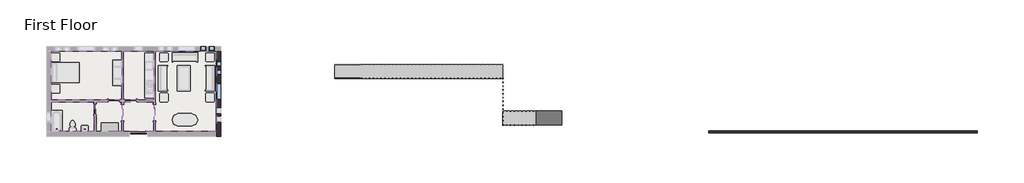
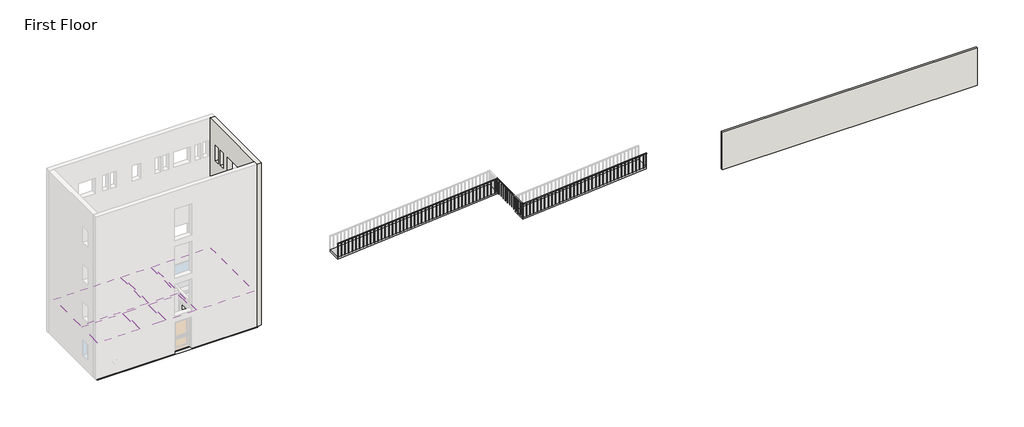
# One storey, part 2 of 3: 6 coverings, 5 windows, 2 walls, 1 railing, 1 ramp, 1 slab.
"""IFC4 building model written with IfcOpenShell, lengths in millimetres."""

from ifc_helpers import new_model, si_unit, frame, origin, origin_with_axes, place, context, project, spatial, polyline, outline, extrude, faceted_brep, transform, mapped, element, save
from components import ramp_1_0e3f6d6b, m_fixed_0406_x_1220mm_57fee329, m_fixed_0406_x_1220mm_85c28f40, m_fixed_1220_x_1220_e08ff7af

model = new_model("IFC4")

# Units and contexts
model_context = context("Model", 3, world=origin())
ifc_project = project(units=[si_unit("LENGTHUNIT", "METRE", prefix="MILLI")], contexts=[model_context])

# Site, building, storey
site = spatial("IfcSite", under=ifc_project)
building = spatial("IfcBuilding", under=site)
storey = spatial("IfcBuildingStorey", under=building, Name="First Floor", Elevation=0.0)

# Coverings
placement = place(None, origin())
element("IfcCovering", 1, ObjectType="Plain", at=placement, inside=storey, context=model_context, shape_type="SweptSolid", body=[
    extrude(outline(polyline([(-18201.8430086, 13851.0670483), (-13194.8430086, 13851.0670483), (-13194.8430086, 10374.5670483), (-18201.8430086, 10374.5670483), (-18201.8430086, 13851.0670483)])), frame((0.0, 0.0, 2590.0), z_axis=(0.0, 0.0, 1.0), x_axis=(1.0, 0.0, 0.0)), (0.0, 0.0, 1.0), 57.0),
])
element("IfcCovering", 2, ObjectType="Plain", at=placement, inside=storey, context=model_context, shape_type="SweptSolid", body=[
    extrude(outline(polyline([(-13059.3430086, 10374.5670483), (-13059.3430086, 13851.0670483), (-10908.8430086, 13851.0670483), (-10908.8430086, 10374.5670483), (-13059.3430086, 10374.5670483)])), frame((0.0, 0.0, 2590.0), z_axis=(0.0, 0.0, 1.0), x_axis=(1.0, 0.0, 0.0)), (0.0, 0.0, 1.0), 57.0),
])
element("IfcCovering", 3, ObjectType="Plain", at=placement, inside=storey, context=model_context, shape_type="SweptSolid", body=[
    extrude(outline(polyline([(-10773.3430086, 8105.0670483), (-10773.3430086, 13851.0670483), (-6444.0930086, 13851.0670483), (-6444.0930086, 8105.0670483), (-10773.3430086, 8105.0670483)])), frame((0.0, 0.0, 2590.0), z_axis=(0.0, 0.0, 1.0), x_axis=(1.0, 0.0, 0.0)), (0.0, 0.0, 1.0), 57.0),
])
element("IfcCovering", 4, ObjectType="Plain", at=placement, inside=storey, context=model_context, shape_type="SweptSolid", body=[
    extrude(outline(polyline([(-10908.8430086, 8105.0670483), (-13059.3430086, 8105.0670483), (-13059.3430086, 10239.0670483), (-10908.8430086, 10239.0670483), (-10908.8430086, 8105.0670483)])), frame((0.0, 0.0, 2590.0), z_axis=(0.0, 0.0, 1.0), x_axis=(1.0, 0.0, 0.0)), (0.0, 0.0, 1.0), 57.0),
])
element("IfcCovering", 5, ObjectType="Plain", at=placement, inside=storey, context=model_context, shape_type="SweptSolid", body=[
    extrude(outline(polyline([(-13194.8430086, 8105.0670483), (-15018.3430086, 8105.0670483), (-15018.3430086, 10239.0670483), (-13194.8430086, 10239.0670483), (-13194.8430086, 8105.0670483)])), frame((0.0, 0.0, 2590.0), z_axis=(0.0, 0.0, 1.0), x_axis=(1.0, 0.0, 0.0)), (0.0, 0.0, 1.0), 57.0),
])
element("IfcCovering", 6, ObjectType="Plain", at=placement, inside=storey, context=model_context, shape_type="SweptSolid", body=[
    extrude(outline(polyline([(-15153.8430086, 10239.0670483), (-15153.8430086, 8105.0670483), (-18201.8430086, 8105.0670483), (-18201.8430086, 10239.0670483), (-15153.8430086, 10239.0670483)])), frame((0.0, 0.0, 2590.0), z_axis=(0.0, 0.0, 1.0), x_axis=(1.0, 0.0, 0.0)), (0.0, 0.0, 1.0), 57.0),
])

# Railing
element("IfcRailing", 7, ObjectType="1100mm", at=placement, inside=storey, context=model_context, shape_type="SolidModel", body=[
    faceted_brep([(2045.9938283, 11939.6420399, 1100.0), (2045.9938283, 11939.6420399, 1049.8266893), (2045.9938283, 11889.6420399, 1049.8266893), (2045.9938283, 11889.6420399, 1100.0), (13945.9938283, 11939.6420399, 2091.6666667), (13995.9938283, 11939.6420399, 2045.6600226), (13995.9938283, 11889.6420399, 2045.6600226), (13945.9938283, 11889.6420399, 2091.6666667), (13945.9938283, 11939.6420399, 2100.0), (13995.9938283, 11939.6420399, 2050.0), (13995.9938283, 11889.6420399, 2050.0), (13945.9938283, 11889.6420399, 2100.0), (14070.9938283, 11939.6420399, 2100.0), (14070.9938283, 11939.6420399, 2050.0), (14020.9938283, 11889.6420399, 2050.0), (14020.9938283, 11889.6420399, 2100.0), (14070.9938283, 11814.6420399, 2100.0), (14070.9938283, 11814.6420399, 2050.0), (14020.9938283, 11814.6420399, 2050.0), (14020.9938283, 11814.6420399, 2100.0), (14070.9938283, 8671.2961921, 2100.0), (14070.9938283, 8621.2961921, 2050.0), (14020.9938283, 8621.2961921, 2050.0), (14020.9938283, 8671.2961921, 2100.0), (14070.9938283, 8671.2961921, 2108.3333333), (14070.9938283, 8621.2961921, 2058.3333333), (14020.9938283, 8621.2961921, 2058.3333333), (14020.9938283, 8671.2961921, 2108.3333333), (14070.9938283, 8596.2961921, 2108.3333333), (14070.9938283, 8596.2961921, 2058.3333333), (14020.9938283, 8546.2961921, 2058.3333333), (14020.9938283, 8546.2961921, 2108.3333333), (14145.9938283, 8596.2961921, 2108.3333333), (14148.0735572, 8596.2961921, 2058.3333333), (14148.0735572, 8546.2961921, 2058.3333333), (14145.9938283, 8546.2961921, 2108.3333333), (23345.9938283, 8596.2961921, 2875.0), (23345.9938283, 8546.2961921, 2875.0), (23345.9938283, 8546.2961921, 2824.8266893), (23345.9938283, 8596.2961921, 2824.8266893)], [[[0, 1, 2, 3]], [[1, 0, 4, 5]], [[2, 1, 5, 6]], [[3, 2, 6, 7]], [[0, 3, 7, 4]], [[5, 4, 8, 9]], [[6, 5, 9, 10]], [[7, 6, 10, 11]], [[4, 7, 11, 8]], [[9, 8, 12, 13]], [[10, 9, 13, 14]], [[11, 10, 14, 15]], [[8, 11, 15, 12]], [[13, 12, 16, 17]], [[14, 13, 17, 18]], [[15, 14, 18, 19]], [[12, 15, 19, 16]], [[17, 16, 20, 21]], [[18, 17, 21, 22]], [[19, 18, 22, 23]], [[16, 19, 23, 20]], [[21, 20, 24, 25]], [[22, 21, 25, 26]], [[23, 22, 26, 27]], [[20, 23, 27, 24]], [[25, 24, 28, 29]], [[26, 25, 29, 30]], [[27, 26, 30, 31]], [[24, 27, 31, 28]], [[29, 28, 32, 33]], [[30, 29, 33, 34]], [[31, 30, 34, 35]], [[28, 31, 35, 32]], [[36, 37, 38, 39]], [[33, 32, 36, 39]], [[34, 33, 39, 38]], [[35, 34, 38, 37]], [[32, 35, 37, 36]]]),
    extrude(outline(polyline([(1755.2083333, 23108.4938283), (1757.2916667, 23133.4938283), (2807.1183559, 23133.4938283), (2805.0350226, 23108.4938283), (1755.2083333, 23108.4938283)])), frame((0.0, 8558.7961921, 0.0), z_axis=(0.0, 1.0, 0.0), x_axis=(0.0, 0.0, 1.0)), (0.0, 0.0, 1.0), 25.0),
    extrude(outline(polyline([(1732.2916667, 22833.4938283), (1734.375, 22858.4938283), (2784.2016893, 22858.4938283), (2782.1183559, 22833.4938283), (1732.2916667, 22833.4938283)])), frame((0.0, 8558.7961921, 0.0), z_axis=(0.0, 1.0, 0.0), x_axis=(0.0, 0.0, 1.0)), (0.0, 0.0, 1.0), 25.0),
    extrude(outline(polyline([(1709.375, 22558.4938283), (1711.4583333, 22583.4938283), (2761.2850226, 22583.4938283), (2759.2016893, 22558.4938283), (1709.375, 22558.4938283)])), frame((0.0, 8558.7961921, 0.0), z_axis=(0.0, 1.0, 0.0), x_axis=(0.0, 0.0, 1.0)), (0.0, 0.0, 1.0), 25.0),
    extrude(outline(polyline([(1686.4583333, 22283.4938283), (1688.5416667, 22308.4938283), (2738.3683559, 22308.4938283), (2736.2850226, 22283.4938283), (1686.4583333, 22283.4938283)])), frame((0.0, 8558.7961921, 0.0), z_axis=(0.0, 1.0, 0.0), x_axis=(0.0, 0.0, 1.0)), (0.0, 0.0, 1.0), 25.0),
    extrude(outline(polyline([(1663.5416667, 22008.4938283), (1665.625, 22033.4938283), (2715.4516893, 22033.4938283), (2713.3683559, 22008.4938283), (1663.5416667, 22008.4938283)])), frame((0.0, 8558.7961921, 0.0), z_axis=(0.0, 1.0, 0.0), x_axis=(0.0, 0.0, 1.0)), (0.0, 0.0, 1.0), 25.0),
    extrude(outline(polyline([(1640.625, 21733.4938283), (1642.7083333, 21758.4938283), (2692.5350226, 21758.4938283), (2690.4516893, 21733.4938283), (1640.625, 21733.4938283)])), frame((0.0, 8558.7961921, 0.0), z_axis=(0.0, 1.0, 0.0), x_axis=(0.0, 0.0, 1.0)), (0.0, 0.0, 1.0), 25.0),
    extrude(outline(polyline([(1617.7083333, 21458.4938283), (1619.7916667, 21483.4938283), (2669.6183559, 21483.4938283), (2667.5350226, 21458.4938283), (1617.7083333, 21458.4938283)])), frame((0.0, 8558.7961921, 0.0), z_axis=(0.0, 1.0, 0.0), x_axis=(0.0, 0.0, 1.0)), (0.0, 0.0, 1.0), 25.0),
    extrude(outline(polyline([(1594.7916667, 21183.4938283), (1596.875, 21208.4938283), (2646.7016893, 21208.4938283), (2644.6183559, 21183.4938283), (1594.7916667, 21183.4938283)])), frame((0.0, 8558.7961921, 0.0), z_axis=(0.0, 1.0, 0.0), x_axis=(0.0, 0.0, 1.0)), (0.0, 0.0, 1.0), 25.0),
    extrude(outline(polyline([(1571.875, 20908.4938283), (1573.9583333, 20933.4938283), (2623.7850226, 20933.4938283), (2621.7016893, 20908.4938283), (1571.875, 20908.4938283)])), frame((0.0, 8558.7961921, 0.0), z_axis=(0.0, 1.0, 0.0), x_axis=(0.0, 0.0, 1.0)), (0.0, 0.0, 1.0), 25.0),
    extrude(outline(polyline([(1548.9583333, 20633.4938283), (1551.0416667, 20658.4938283), (2600.8683559, 20658.4938283), (2598.7850226, 20633.4938283), (1548.9583333, 20633.4938283)])), frame((0.0, 8558.7961921, 0.0), z_axis=(0.0, 1.0, 0.0), x_axis=(0.0, 0.0, 1.0)), (0.0, 0.0, 1.0), 25.0),
    extrude(outline(polyline([(1526.0416667, 20358.4938283), (1528.125, 20383.4938283), (2577.9516893, 20383.4938283), (2575.8683559, 20358.4938283), (1526.0416667, 20358.4938283)])), frame((0.0, 8558.7961921, 0.0), z_axis=(0.0, 1.0, 0.0), x_axis=(0.0, 0.0, 1.0)), (0.0, 0.0, 1.0), 25.0),
    extrude(outline(polyline([(1503.125, 20083.4938283), (1505.2083333, 20108.4938283), (2555.0350226, 20108.4938283), (2552.9516893, 20083.4938283), (1503.125, 20083.4938283)])), frame((0.0, 8558.7961921, 0.0), z_axis=(0.0, 1.0, 0.0), x_axis=(0.0, 0.0, 1.0)), (0.0, 0.0, 1.0), 25.0),
    extrude(outline(polyline([(1480.2083333, 19808.4938283), (1482.2916667, 19833.4938283), (2532.1183559, 19833.4938283), (2530.0350226, 19808.4938283), (1480.2083333, 19808.4938283)])), frame((0.0, 8558.7961921, 0.0), z_axis=(0.0, 1.0, 0.0), x_axis=(0.0, 0.0, 1.0)), (0.0, 0.0, 1.0), 25.0),
    extrude(outline(polyline([(1457.2916667, 19533.4938283), (1459.375, 19558.4938283), (2509.2016893, 19558.4938283), (2507.1183559, 19533.4938283), (1457.2916667, 19533.4938283)])), frame((0.0, 8558.7961921, 0.0), z_axis=(0.0, 1.0, 0.0), x_axis=(0.0, 0.0, 1.0)), (0.0, 0.0, 1.0), 25.0),
    extrude(outline(polyline([(1434.375, 19258.4938283), (1436.4583333, 19283.4938283), (2486.2850226, 19283.4938283), (2484.2016893, 19258.4938283), (1434.375, 19258.4938283)])), frame((0.0, 8558.7961921, 0.0), z_axis=(0.0, 1.0, 0.0), x_axis=(0.0, 0.0, 1.0)), (0.0, 0.0, 1.0), 25.0),
    extrude(outline(polyline([(1411.4583333, 18983.4938283), (1413.5416667, 19008.4938283), (2463.3683559, 19008.4938283), (2461.2850226, 18983.4938283), (1411.4583333, 18983.4938283)])), frame((0.0, 8558.7961921, 0.0), z_axis=(0.0, 1.0, 0.0), x_axis=(0.0, 0.0, 1.0)), (0.0, 0.0, 1.0), 25.0),
    extrude(outline(polyline([(1388.5416667, 18708.4938283), (1390.625, 18733.4938283), (2440.4516893, 18733.4938283), (2438.3683559, 18708.4938283), (1388.5416667, 18708.4938283)])), frame((0.0, 8558.7961921, 0.0), z_axis=(0.0, 1.0, 0.0), x_axis=(0.0, 0.0, 1.0)), (0.0, 0.0, 1.0), 25.0),
    extrude(outline(polyline([(1365.625, 18433.4938283), (1367.7083333, 18458.4938283), (2417.5350226, 18458.4938283), (2415.4516893, 18433.4938283), (1365.625, 18433.4938283)])), frame((0.0, 8558.7961921, 0.0), z_axis=(0.0, 1.0, 0.0), x_axis=(0.0, 0.0, 1.0)), (0.0, 0.0, 1.0), 25.0),
    extrude(outline(polyline([(1342.7083333, 18158.4938283), (1344.7916667, 18183.4938283), (2394.6183559, 18183.4938283), (2392.5350226, 18158.4938283), (1342.7083333, 18158.4938283)])), frame((0.0, 8558.7961921, 0.0), z_axis=(0.0, 1.0, 0.0), x_axis=(0.0, 0.0, 1.0)), (0.0, 0.0, 1.0), 25.0),
    extrude(outline(polyline([(1319.7916667, 17883.4938283), (1321.875, 17908.4938283), (2371.7016893, 17908.4938283), (2369.6183559, 17883.4938283), (1319.7916667, 17883.4938283)])), frame((0.0, 8558.7961921, 0.0), z_axis=(0.0, 1.0, 0.0), x_axis=(0.0, 0.0, 1.0)), (0.0, 0.0, 1.0), 25.0),
    extrude(outline(polyline([(1296.875, 17608.4938283), (1298.9583333, 17633.4938283), (2348.7850226, 17633.4938283), (2346.7016893, 17608.4938283), (1296.875, 17608.4938283)])), frame((0.0, 8558.7961921, 0.0), z_axis=(0.0, 1.0, 0.0), x_axis=(0.0, 0.0, 1.0)), (0.0, 0.0, 1.0), 25.0),
    extrude(outline(polyline([(1273.9583333, 17333.4938283), (1276.0416667, 17358.4938283), (2325.8683559, 17358.4938283), (2323.7850226, 17333.4938283), (1273.9583333, 17333.4938283)])), frame((0.0, 8558.7961921, 0.0), z_axis=(0.0, 1.0, 0.0), x_axis=(0.0, 0.0, 1.0)), (0.0, 0.0, 1.0), 25.0),
    extrude(outline(polyline([(1251.0416667, 17058.4938283), (1253.125, 17083.4938283), (2302.9516893, 17083.4938283), (2300.8683559, 17058.4938283), (1251.0416667, 17058.4938283)])), frame((0.0, 8558.7961921, 0.0), z_axis=(0.0, 1.0, 0.0), x_axis=(0.0, 0.0, 1.0)), (0.0, 0.0, 1.0), 25.0),
    extrude(outline(polyline([(1228.125, 16783.4938283), (1230.2083333, 16808.4938283), (2280.0350226, 16808.4938283), (2277.9516893, 16783.4938283), (1228.125, 16783.4938283)])), frame((0.0, 8558.7961921, 0.0), z_axis=(0.0, 1.0, 0.0), x_axis=(0.0, 0.0, 1.0)), (0.0, 0.0, 1.0), 25.0),
    extrude(outline(polyline([(1205.2083333, 16508.4938283), (1207.2916667, 16533.4938283), (2257.1183559, 16533.4938283), (2255.0350226, 16508.4938283), (1205.2083333, 16508.4938283)])), frame((0.0, 8558.7961921, 0.0), z_axis=(0.0, 1.0, 0.0), x_axis=(0.0, 0.0, 1.0)), (0.0, 0.0, 1.0), 25.0),
    extrude(outline(polyline([(1182.2916667, 16233.4938283), (1184.375, 16258.4938283), (2234.2016893, 16258.4938283), (2232.1183559, 16233.4938283), (1182.2916667, 16233.4938283)])), frame((0.0, 8558.7961921, 0.0), z_axis=(0.0, 1.0, 0.0), x_axis=(0.0, 0.0, 1.0)), (0.0, 0.0, 1.0), 25.0),
    extrude(outline(polyline([(1159.375, 15958.4938283), (1161.4583333, 15983.4938283), (2211.2850226, 15983.4938283), (2209.2016893, 15958.4938283), (1159.375, 15958.4938283)])), frame((0.0, 8558.7961921, 0.0), z_axis=(0.0, 1.0, 0.0), x_axis=(0.0, 0.0, 1.0)), (0.0, 0.0, 1.0), 25.0),
    extrude(outline(polyline([(1136.4583333, 15683.4938283), (1138.5416667, 15708.4938283), (2188.3683559, 15708.4938283), (2186.2850226, 15683.4938283), (1136.4583333, 15683.4938283)])), frame((0.0, 8558.7961921, 0.0), z_axis=(0.0, 1.0, 0.0), x_axis=(0.0, 0.0, 1.0)), (0.0, 0.0, 1.0), 25.0),
    extrude(outline(polyline([(1113.5416667, 15408.4938283), (1115.625, 15433.4938283), (2165.4516893, 15433.4938283), (2163.3683559, 15408.4938283), (1113.5416667, 15408.4938283)])), frame((0.0, 8558.7961921, 0.0), z_axis=(0.0, 1.0, 0.0), x_axis=(0.0, 0.0, 1.0)), (0.0, 0.0, 1.0), 25.0),
    extrude(outline(polyline([(1090.625, 15133.4938283), (1092.7083333, 15158.4938283), (2142.5350226, 15158.4938283), (2140.4516893, 15133.4938283), (1090.625, 15133.4938283)])), frame((0.0, 8558.7961921, 0.0), z_axis=(0.0, 1.0, 0.0), x_axis=(0.0, 0.0, 1.0)), (0.0, 0.0, 1.0), 25.0),
    extrude(outline(polyline([(1067.7083333, 14858.4938283), (1069.7916667, 14883.4938283), (2119.6183559, 14883.4938283), (2117.5350226, 14858.4938283), (1067.7083333, 14858.4938283)])), frame((0.0, 8558.7961921, 0.0), z_axis=(0.0, 1.0, 0.0), x_axis=(0.0, 0.0, 1.0)), (0.0, 0.0, 1.0), 25.0),
    extrude(outline(polyline([(1044.7916667, 14583.4938283), (1046.875, 14608.4938283), (2096.7016893, 14608.4938283), (2094.6183559, 14583.4938283), (1044.7916667, 14583.4938283)])), frame((0.0, 8558.7961921, 0.0), z_axis=(0.0, 1.0, 0.0), x_axis=(0.0, 0.0, 1.0)), (0.0, 0.0, 1.0), 25.0),
    extrude(outline(polyline([(1021.875, 14308.4938283), (1023.9583333, 14333.4938283), (2073.7850226, 14333.4938283), (2071.7016893, 14308.4938283), (1021.875, 14308.4938283)])), frame((0.0, 8558.7961921, 0.0), z_axis=(0.0, 1.0, 0.0), x_axis=(0.0, 0.0, 1.0)), (0.0, 0.0, 1.0), 25.0),
    extrude(outline(polyline([(14058.4938283, 8627.1420399), (14058.4938283, 8602.1420399), (14033.4938283, 8602.1420399), (14033.4938283, 8627.1420399), (14058.4938283, 8627.1420399)])), frame((0.0, 0.0, 1000.0), z_axis=(0.0, 0.0, 1.0), x_axis=(1.0, 0.0, 0.0)), (0.0, 0.0, 1.0), 1050.0),
    extrude(outline(polyline([(14058.4938283, 8902.1420399), (14058.4938283, 8877.1420399), (14033.4938283, 8877.1420399), (14033.4938283, 8902.1420399), (14058.4938283, 8902.1420399)])), frame((0.0, 0.0, 1000.0), z_axis=(0.0, 0.0, 1.0), x_axis=(1.0, 0.0, 0.0)), (0.0, 0.0, 1.0), 1050.0),
    extrude(outline(polyline([(14058.4938283, 9177.1420399), (14058.4938283, 9152.1420399), (14033.4938283, 9152.1420399), (14033.4938283, 9177.1420399), (14058.4938283, 9177.1420399)])), frame((0.0, 0.0, 1000.0), z_axis=(0.0, 0.0, 1.0), x_axis=(1.0, 0.0, 0.0)), (0.0, 0.0, 1.0), 1050.0),
    extrude(outline(polyline([(14058.4938283, 9452.1420399), (14058.4938283, 9427.1420399), (14033.4938283, 9427.1420399), (14033.4938283, 9452.1420399), (14058.4938283, 9452.1420399)])), frame((0.0, 0.0, 1000.0), z_axis=(0.0, 0.0, 1.0), x_axis=(1.0, 0.0, 0.0)), (0.0, 0.0, 1.0), 1050.0),
    extrude(outline(polyline([(14058.4938283, 9727.1420399), (14058.4938283, 9702.1420399), (14033.4938283, 9702.1420399), (14033.4938283, 9727.1420399), (14058.4938283, 9727.1420399)])), frame((0.0, 0.0, 1000.0), z_axis=(0.0, 0.0, 1.0), x_axis=(1.0, 0.0, 0.0)), (0.0, 0.0, 1.0), 1050.0),
    extrude(outline(polyline([(14058.4938283, 10002.1420399), (14058.4938283, 9977.1420399), (14033.4938283, 9977.1420399), (14033.4938283, 10002.1420399), (14058.4938283, 10002.1420399)])), frame((0.0, 0.0, 1000.0), z_axis=(0.0, 0.0, 1.0), x_axis=(1.0, 0.0, 0.0)), (0.0, 0.0, 1.0), 1050.0),
    extrude(outline(polyline([(14058.4938283, 10277.1420399), (14058.4938283, 10252.1420399), (14033.4938283, 10252.1420399), (14033.4938283, 10277.1420399), (14058.4938283, 10277.1420399)])), frame((0.0, 0.0, 1000.0), z_axis=(0.0, 0.0, 1.0), x_axis=(1.0, 0.0, 0.0)), (0.0, 0.0, 1.0), 1050.0),
    extrude(outline(polyline([(14058.4938283, 10552.1420399), (14058.4938283, 10527.1420399), (14033.4938283, 10527.1420399), (14033.4938283, 10552.1420399), (14058.4938283, 10552.1420399)])), frame((0.0, 0.0, 1000.0), z_axis=(0.0, 0.0, 1.0), x_axis=(1.0, 0.0, 0.0)), (0.0, 0.0, 1.0), 1050.0),
    extrude(outline(polyline([(14058.4938283, 10827.1420399), (14058.4938283, 10802.1420399), (14033.4938283, 10802.1420399), (14033.4938283, 10827.1420399), (14058.4938283, 10827.1420399)])), frame((0.0, 0.0, 1000.0), z_axis=(0.0, 0.0, 1.0), x_axis=(1.0, 0.0, 0.0)), (0.0, 0.0, 1.0), 1050.0),
    extrude(outline(polyline([(14058.4938283, 11102.1420399), (14058.4938283, 11077.1420399), (14033.4938283, 11077.1420399), (14033.4938283, 11102.1420399), (14058.4938283, 11102.1420399)])), frame((0.0, 0.0, 1000.0), z_axis=(0.0, 0.0, 1.0), x_axis=(1.0, 0.0, 0.0)), (0.0, 0.0, 1.0), 1050.0),
    extrude(outline(polyline([(14058.4938283, 11377.1420399), (14058.4938283, 11352.1420399), (14033.4938283, 11352.1420399), (14033.4938283, 11377.1420399), (14058.4938283, 11377.1420399)])), frame((0.0, 0.0, 1000.0), z_axis=(0.0, 0.0, 1.0), x_axis=(1.0, 0.0, 0.0)), (0.0, 0.0, 1.0), 1050.0),
    extrude(outline(polyline([(14058.4938283, 11652.1420399), (14058.4938283, 11627.1420399), (14033.4938283, 11627.1420399), (14033.4938283, 11652.1420399), (14058.4938283, 11652.1420399)])), frame((0.0, 0.0, 1000.0), z_axis=(0.0, 0.0, 1.0), x_axis=(1.0, 0.0, 0.0)), (0.0, 0.0, 1.0), 1050.0),
    extrude(outline(polyline([(984.375, 13858.4938283), (986.4583333, 13883.4938283), (2036.2850226, 13883.4938283), (2034.2016893, 13858.4938283), (984.375, 13858.4938283)])), frame((0.0, 11902.1420399, 0.0), z_axis=(0.0, 1.0, 0.0), x_axis=(0.0, 0.0, 1.0)), (0.0, 0.0, 1.0), 25.0),
    extrude(outline(polyline([(961.4583333, 13583.4938283), (963.5416667, 13608.4938283), (2013.3683559, 13608.4938283), (2011.2850226, 13583.4938283), (961.4583333, 13583.4938283)])), frame((0.0, 11902.1420399, 0.0), z_axis=(0.0, 1.0, 0.0), x_axis=(0.0, 0.0, 1.0)), (0.0, 0.0, 1.0), 25.0),
    extrude(outline(polyline([(938.5416667, 13308.4938283), (940.625, 13333.4938283), (1990.4516893, 13333.4938283), (1988.3683559, 13308.4938283), (938.5416667, 13308.4938283)])), frame((0.0, 11902.1420399, 0.0), z_axis=(0.0, 1.0, 0.0), x_axis=(0.0, 0.0, 1.0)), (0.0, 0.0, 1.0), 25.0),
    extrude(outline(polyline([(915.625, 13033.4938283), (917.7083333, 13058.4938283), (1967.5350226, 13058.4938283), (1965.4516893, 13033.4938283), (915.625, 13033.4938283)])), frame((0.0, 11902.1420399, 0.0), z_axis=(0.0, 1.0, 0.0), x_axis=(0.0, 0.0, 1.0)), (0.0, 0.0, 1.0), 25.0),
    extrude(outline(polyline([(892.7083333, 12758.4938283), (894.7916667, 12783.4938283), (1944.6183559, 12783.4938283), (1942.5350226, 12758.4938283), (892.7083333, 12758.4938283)])), frame((0.0, 11902.1420399, 0.0), z_axis=(0.0, 1.0, 0.0), x_axis=(0.0, 0.0, 1.0)), (0.0, 0.0, 1.0), 25.0),
    extrude(outline(polyline([(869.7916667, 12483.4938283), (871.875, 12508.4938283), (1921.7016893, 12508.4938283), (1919.6183559, 12483.4938283), (869.7916667, 12483.4938283)])), frame((0.0, 11902.1420399, 0.0), z_axis=(0.0, 1.0, 0.0), x_axis=(0.0, 0.0, 1.0)), (0.0, 0.0, 1.0), 25.0),
    extrude(outline(polyline([(846.875, 12208.4938283), (848.9583333, 12233.4938283), (1898.7850226, 12233.4938283), (1896.7016893, 12208.4938283), (846.875, 12208.4938283)])), frame((0.0, 11902.1420399, 0.0), z_axis=(0.0, 1.0, 0.0), x_axis=(0.0, 0.0, 1.0)), (0.0, 0.0, 1.0), 25.0),
    extrude(outline(polyline([(823.9583333, 11933.4938283), (826.0416667, 11958.4938283), (1875.8683559, 11958.4938283), (1873.7850226, 11933.4938283), (823.9583333, 11933.4938283)])), frame((0.0, 11902.1420399, 0.0), z_axis=(0.0, 1.0, 0.0), x_axis=(0.0, 0.0, 1.0)), (0.0, 0.0, 1.0), 25.0),
    extrude(outline(polyline([(801.0416667, 11658.4938283), (803.125, 11683.4938283), (1852.9516893, 11683.4938283), (1850.8683559, 11658.4938283), (801.0416667, 11658.4938283)])), frame((0.0, 11902.1420399, 0.0), z_axis=(0.0, 1.0, 0.0), x_axis=(0.0, 0.0, 1.0)), (0.0, 0.0, 1.0), 25.0),
    extrude(outline(polyline([(778.125, 11383.4938283), (780.2083333, 11408.4938283), (1830.0350226, 11408.4938283), (1827.9516893, 11383.4938283), (778.125, 11383.4938283)])), frame((0.0, 11902.1420399, 0.0), z_axis=(0.0, 1.0, 0.0), x_axis=(0.0, 0.0, 1.0)), (0.0, 0.0, 1.0), 25.0),
    extrude(outline(polyline([(755.2083333, 11108.4938283), (757.2916667, 11133.4938283), (1807.1183559, 11133.4938283), (1805.0350226, 11108.4938283), (755.2083333, 11108.4938283)])), frame((0.0, 11902.1420399, 0.0), z_axis=(0.0, 1.0, 0.0), x_axis=(0.0, 0.0, 1.0)), (0.0, 0.0, 1.0), 25.0),
    extrude(outline(polyline([(732.2916667, 10833.4938283), (734.375, 10858.4938283), (1784.2016893, 10858.4938283), (1782.1183559, 10833.4938283), (732.2916667, 10833.4938283)])), frame((0.0, 11902.1420399, 0.0), z_axis=(0.0, 1.0, 0.0), x_axis=(0.0, 0.0, 1.0)), (0.0, 0.0, 1.0), 25.0),
    extrude(outline(polyline([(709.375, 10558.4938283), (711.4583333, 10583.4938283), (1761.2850226, 10583.4938283), (1759.2016893, 10558.4938283), (709.375, 10558.4938283)])), frame((0.0, 11902.1420399, 0.0), z_axis=(0.0, 1.0, 0.0), x_axis=(0.0, 0.0, 1.0)), (0.0, 0.0, 1.0), 25.0),
    extrude(outline(polyline([(686.4583333, 10283.4938283), (688.5416667, 10308.4938283), (1738.3683559, 10308.4938283), (1736.2850226, 10283.4938283), (686.4583333, 10283.4938283)])), frame((0.0, 11902.1420399, 0.0), z_axis=(0.0, 1.0, 0.0), x_axis=(0.0, 0.0, 1.0)), (0.0, 0.0, 1.0), 25.0),
    extrude(outline(polyline([(663.5416667, 10008.4938283), (665.625, 10033.4938283), (1715.4516893, 10033.4938283), (1713.3683559, 10008.4938283), (663.5416667, 10008.4938283)])), frame((0.0, 11902.1420399, 0.0), z_axis=(0.0, 1.0, 0.0), x_axis=(0.0, 0.0, 1.0)), (0.0, 0.0, 1.0), 25.0),
    extrude(outline(polyline([(640.625, 9733.4938283), (642.7083333, 9758.4938283), (1692.5350226, 9758.4938283), (1690.4516893, 9733.4938283), (640.625, 9733.4938283)])), frame((0.0, 11902.1420399, 0.0), z_axis=(0.0, 1.0, 0.0), x_axis=(0.0, 0.0, 1.0)), (0.0, 0.0, 1.0), 25.0),
    extrude(outline(polyline([(617.7083333, 9458.4938283), (619.7916667, 9483.4938283), (1669.6183559, 9483.4938283), (1667.5350226, 9458.4938283), (617.7083333, 9458.4938283)])), frame((0.0, 11902.1420399, 0.0), z_axis=(0.0, 1.0, 0.0), x_axis=(0.0, 0.0, 1.0)), (0.0, 0.0, 1.0), 25.0),
    extrude(outline(polyline([(594.7916667, 9183.4938283), (596.875, 9208.4938283), (1646.7016893, 9208.4938283), (1644.6183559, 9183.4938283), (594.7916667, 9183.4938283)])), frame((0.0, 11902.1420399, 0.0), z_axis=(0.0, 1.0, 0.0), x_axis=(0.0, 0.0, 1.0)), (0.0, 0.0, 1.0), 25.0),
    extrude(outline(polyline([(571.875, 8908.4938283), (573.9583333, 8933.4938283), (1623.7850226, 8933.4938283), (1621.7016893, 8908.4938283), (571.875, 8908.4938283)])), frame((0.0, 11902.1420399, 0.0), z_axis=(0.0, 1.0, 0.0), x_axis=(0.0, 0.0, 1.0)), (0.0, 0.0, 1.0), 25.0),
    extrude(outline(polyline([(548.9583333, 8633.4938283), (551.0416667, 8658.4938283), (1600.8683559, 8658.4938283), (1598.7850226, 8633.4938283), (548.9583333, 8633.4938283)])), frame((0.0, 11902.1420399, 0.0), z_axis=(0.0, 1.0, 0.0), x_axis=(0.0, 0.0, 1.0)), (0.0, 0.0, 1.0), 25.0),
    extrude(outline(polyline([(526.0416667, 8358.4938283), (528.125, 8383.4938283), (1577.9516893, 8383.4938283), (1575.8683559, 8358.4938283), (526.0416667, 8358.4938283)])), frame((0.0, 11902.1420399, 0.0), z_axis=(0.0, 1.0, 0.0), x_axis=(0.0, 0.0, 1.0)), (0.0, 0.0, 1.0), 25.0),
    extrude(outline(polyline([(503.125, 8083.4938283), (505.2083333, 8108.4938283), (1555.0350226, 8108.4938283), (1552.9516893, 8083.4938283), (503.125, 8083.4938283)])), frame((0.0, 11902.1420399, 0.0), z_axis=(0.0, 1.0, 0.0), x_axis=(0.0, 0.0, 1.0)), (0.0, 0.0, 1.0), 25.0),
    extrude(outline(polyline([(480.2083333, 7808.4938283), (482.2916667, 7833.4938283), (1532.1183559, 7833.4938283), (1530.0350226, 7808.4938283), (480.2083333, 7808.4938283)])), frame((0.0, 11902.1420399, 0.0), z_axis=(0.0, 1.0, 0.0), x_axis=(0.0, 0.0, 1.0)), (0.0, 0.0, 1.0), 25.0),
    extrude(outline(polyline([(457.2916667, 7533.4938283), (459.375, 7558.4938283), (1509.2016893, 7558.4938283), (1507.1183559, 7533.4938283), (457.2916667, 7533.4938283)])), frame((0.0, 11902.1420399, 0.0), z_axis=(0.0, 1.0, 0.0), x_axis=(0.0, 0.0, 1.0)), (0.0, 0.0, 1.0), 25.0),
    extrude(outline(polyline([(434.375, 7258.4938283), (436.4583333, 7283.4938283), (1486.2850226, 7283.4938283), (1484.2016893, 7258.4938283), (434.375, 7258.4938283)])), frame((0.0, 11902.1420399, 0.0), z_axis=(0.0, 1.0, 0.0), x_axis=(0.0, 0.0, 1.0)), (0.0, 0.0, 1.0), 25.0),
    extrude(outline(polyline([(411.4583333, 6983.4938283), (413.5416667, 7008.4938283), (1463.3683559, 7008.4938283), (1461.2850226, 6983.4938283), (411.4583333, 6983.4938283)])), frame((0.0, 11902.1420399, 0.0), z_axis=(0.0, 1.0, 0.0), x_axis=(0.0, 0.0, 1.0)), (0.0, 0.0, 1.0), 25.0),
    extrude(outline(polyline([(388.5416667, 6708.4938283), (390.625, 6733.4938283), (1440.4516893, 6733.4938283), (1438.3683559, 6708.4938283), (388.5416667, 6708.4938283)])), frame((0.0, 11902.1420399, 0.0), z_axis=(0.0, 1.0, 0.0), x_axis=(0.0, 0.0, 1.0)), (0.0, 0.0, 1.0), 25.0),
    extrude(outline(polyline([(365.625, 6433.4938283), (367.7083333, 6458.4938283), (1417.5350226, 6458.4938283), (1415.4516893, 6433.4938283), (365.625, 6433.4938283)])), frame((0.0, 11902.1420399, 0.0), z_axis=(0.0, 1.0, 0.0), x_axis=(0.0, 0.0, 1.0)), (0.0, 0.0, 1.0), 25.0),
    extrude(outline(polyline([(342.7083333, 6158.4938283), (344.7916667, 6183.4938283), (1394.6183559, 6183.4938283), (1392.5350226, 6158.4938283), (342.7083333, 6158.4938283)])), frame((0.0, 11902.1420399, 0.0), z_axis=(0.0, 1.0, 0.0), x_axis=(0.0, 0.0, 1.0)), (0.0, 0.0, 1.0), 25.0),
    extrude(outline(polyline([(319.7916667, 5883.4938283), (321.875, 5908.4938283), (1371.7016893, 5908.4938283), (1369.6183559, 5883.4938283), (319.7916667, 5883.4938283)])), frame((0.0, 11902.1420399, 0.0), z_axis=(0.0, 1.0, 0.0), x_axis=(0.0, 0.0, 1.0)), (0.0, 0.0, 1.0), 25.0),
    extrude(outline(polyline([(296.875, 5608.4938283), (298.9583333, 5633.4938283), (1348.7850226, 5633.4938283), (1346.7016893, 5608.4938283), (296.875, 5608.4938283)])), frame((0.0, 11902.1420399, 0.0), z_axis=(0.0, 1.0, 0.0), x_axis=(0.0, 0.0, 1.0)), (0.0, 0.0, 1.0), 25.0),
    extrude(outline(polyline([(273.9583333, 5333.4938283), (276.0416667, 5358.4938283), (1325.8683559, 5358.4938283), (1323.7850226, 5333.4938283), (273.9583333, 5333.4938283)])), frame((0.0, 11902.1420399, 0.0), z_axis=(0.0, 1.0, 0.0), x_axis=(0.0, 0.0, 1.0)), (0.0, 0.0, 1.0), 25.0),
    extrude(outline(polyline([(251.0416667, 5058.4938283), (253.125, 5083.4938283), (1302.9516893, 5083.4938283), (1300.8683559, 5058.4938283), (251.0416667, 5058.4938283)])), frame((0.0, 11902.1420399, 0.0), z_axis=(0.0, 1.0, 0.0), x_axis=(0.0, 0.0, 1.0)), (0.0, 0.0, 1.0), 25.0),
    extrude(outline(polyline([(228.125, 4783.4938283), (230.2083333, 4808.4938283), (1280.0350226, 4808.4938283), (1277.9516893, 4783.4938283), (228.125, 4783.4938283)])), frame((0.0, 11902.1420399, 0.0), z_axis=(0.0, 1.0, 0.0), x_axis=(0.0, 0.0, 1.0)), (0.0, 0.0, 1.0), 25.0),
    extrude(outline(polyline([(205.2083333, 4508.4938283), (207.2916667, 4533.4938283), (1257.1183559, 4533.4938283), (1255.0350226, 4508.4938283), (205.2083333, 4508.4938283)])), frame((0.0, 11902.1420399, 0.0), z_axis=(0.0, 1.0, 0.0), x_axis=(0.0, 0.0, 1.0)), (0.0, 0.0, 1.0), 25.0),
    extrude(outline(polyline([(182.2916667, 4233.4938283), (184.375, 4258.4938283), (1234.2016893, 4258.4938283), (1232.1183559, 4233.4938283), (182.2916667, 4233.4938283)])), frame((0.0, 11902.1420399, 0.0), z_axis=(0.0, 1.0, 0.0), x_axis=(0.0, 0.0, 1.0)), (0.0, 0.0, 1.0), 25.0),
    extrude(outline(polyline([(159.375, 3958.4938283), (161.4583333, 3983.4938283), (1211.2850226, 3983.4938283), (1209.2016893, 3958.4938283), (159.375, 3958.4938283)])), frame((0.0, 11902.1420399, 0.0), z_axis=(0.0, 1.0, 0.0), x_axis=(0.0, 0.0, 1.0)), (0.0, 0.0, 1.0), 25.0),
    extrude(outline(polyline([(136.4583333, 3683.4938283), (138.5416667, 3708.4938283), (1188.3683559, 3708.4938283), (1186.2850226, 3683.4938283), (136.4583333, 3683.4938283)])), frame((0.0, 11902.1420399, 0.0), z_axis=(0.0, 1.0, 0.0), x_axis=(0.0, 0.0, 1.0)), (0.0, 0.0, 1.0), 25.0),
    extrude(outline(polyline([(113.5416667, 3408.4938283), (115.625, 3433.4938283), (1165.4516893, 3433.4938283), (1163.3683559, 3408.4938283), (113.5416667, 3408.4938283)])), frame((0.0, 11902.1420399, 0.0), z_axis=(0.0, 1.0, 0.0), x_axis=(0.0, 0.0, 1.0)), (0.0, 0.0, 1.0), 25.0),
    extrude(outline(polyline([(90.625, 3133.4938283), (92.7083333, 3158.4938283), (1142.5350226, 3158.4938283), (1140.4516893, 3133.4938283), (90.625, 3133.4938283)])), frame((0.0, 11902.1420399, 0.0), z_axis=(0.0, 1.0, 0.0), x_axis=(0.0, 0.0, 1.0)), (0.0, 0.0, 1.0), 25.0),
    extrude(outline(polyline([(67.7083333, 2858.4938283), (69.7916667, 2883.4938283), (1119.6183559, 2883.4938283), (1117.5350226, 2858.4938283), (67.7083333, 2858.4938283)])), frame((0.0, 11902.1420399, 0.0), z_axis=(0.0, 1.0, 0.0), x_axis=(0.0, 0.0, 1.0)), (0.0, 0.0, 1.0), 25.0),
    extrude(outline(polyline([(44.7916667, 2583.4938283), (46.875, 2608.4938283), (1096.7016893, 2608.4938283), (1094.6183559, 2583.4938283), (44.7916667, 2583.4938283)])), frame((0.0, 11902.1420399, 0.0), z_axis=(0.0, 1.0, 0.0), x_axis=(0.0, 0.0, 1.0)), (0.0, 0.0, 1.0), 25.0),
    extrude(outline(polyline([(21.875, 2308.4938283), (23.9583333, 2333.4938283), (1073.7850226, 2333.4938283), (1071.7016893, 2308.4938283), (21.875, 2308.4938283)])), frame((0.0, 11902.1420399, 0.0), z_axis=(0.0, 1.0, 0.0), x_axis=(0.0, 0.0, 1.0)), (0.0, 0.0, 1.0), 25.0),
    extrude(outline(polyline([(14058.4938283, 8583.7961921), (14058.4938283, 8558.7961921), (14033.4938283, 8558.7961921), (14033.4938283, 8583.7961921), (14058.4938283, 8583.7961921)])), frame((0.0, 0.0, 1000.0), z_axis=(0.0, 0.0, 1.0), x_axis=(1.0, 0.0, 0.0)), (0.0, 0.0, 1.0), 1058.3333333),
    extrude(outline(polyline([(998.9583333, 14033.4938283), (1001.0416667, 14058.4938283), (2050.0, 14058.4938283), (2050.0, 14033.4938283), (998.9583333, 14033.4938283)])), frame((0.0, 11902.1420399, 0.0), z_axis=(0.0, 1.0, 0.0), x_axis=(0.0, 0.0, 1.0)), (0.0, 0.0, 1.0), 25.0),
    extrude(outline(polyline([(1772.9166667, 23320.9938283), (1775.0, 23345.9938283), (2824.8266893, 23345.9938283), (2822.7433559, 23320.9938283), (1772.9166667, 23320.9938283)])), frame((0.0, 8558.7961921, 0.0), z_axis=(0.0, 1.0, 0.0), x_axis=(0.0, 0.0, 1.0)), (0.0, 0.0, 1.0), 25.0),
    extrude(outline(polyline([(0.0, 2045.9938283), (2.0833333, 2070.9938283), (1051.9100226, 2070.9938283), (1049.8266893, 2045.9938283), (0.0, 2045.9938283)])), frame((0.0, 11902.1420399, 0.0), z_axis=(0.0, 1.0, 0.0), x_axis=(0.0, 0.0, 1.0)), (0.0, 0.0, 1.0), 25.0),
])

# Ramp
ramp_1_shape = ramp_1_0e3f6d6b(model_context)
element("IfcRamp", 8, ObjectType="Ramp 1", at=placement, inside=storey, context=model_context, shape_type="MappedRepresentation", body=[
    mapped(ramp_1_shape, transform((0.0, 0.0, 0.0), x_axis=(1.0, 0.0, 0.0), y_axis=(0.0, 1.0, 0.0), z_axis=(0.0, 0.0, 1.0))),
])

# Slab
element("IfcSlab", 9, ObjectType="160mm Concrete With 50mm Metal Deck", at=placement, inside=storey, context=model_context, shape_type="SweptSolid", body=[
    extrude(outline(polyline([(-6279.0930086, 14016.0670483), (-6279.0930086, 7940.0670483), (-18366.8430086, 7940.0670483), (-18366.8430086, 14016.0670483), (-6279.0930086, 14016.0670483)])), frame((0.0, 0.0, -210.0), z_axis=(0.0, 0.0, 1.0), x_axis=(1.0, 0.0, 0.0)), (0.0, 0.0, 1.0), 210.0),
])

# Walls
element("IfcWall", 10, ObjectType="Exterior - Brick on Mtl. Stud", at=placement, inside=storey, context=model_context, shape_type="Brep", body=[
    faceted_brep([(-6444.0930086, 13851.0670483, 0.0), (-6444.0930086, 8105.0670483, 0.0), (-6444.0930086, 7940.0670483, 0.0), (-6444.0930086, 7755.0670483, 0.0), (-6444.0930086, 7755.0670483, 12915.0), (-6444.0930086, 8105.0670483, 12915.0), (-6444.0930086, 13851.0670483, 12915.0), (-6444.0930086, 10368.0670483, 915.0), (-6444.0930086, 11588.0670483, 915.0), (-6444.0930086, 11588.0670483, 2135.0), (-6444.0930086, 10368.0670483, 2135.0), (-6444.0930086, 12756.2670483, 915.0), (-6444.0930086, 13162.2670483, 915.0), (-6444.0930086, 13162.2670483, 2135.0), (-6444.0930086, 12756.2670483, 2135.0), (-6444.0930086, 12146.6670483, 915.0), (-6444.0930086, 12552.6670483, 915.0), (-6444.0930086, 12552.6670483, 2135.0), (-6444.0930086, 12146.6670483, 2135.0), (-6444.0930086, 9199.8670483, 915.0), (-6444.0930086, 9199.8670483, 2135.0), (-6444.0930086, 8793.8670483, 2135.0), (-6444.0930086, 8793.8670483, 915.0), (-6444.0930086, 9809.4670483, 915.0), (-6444.0930086, 9809.4670483, 2135.0), (-6444.0930086, 9403.4670483, 2135.0), (-6444.0930086, 9403.4670483, 915.0), (-6444.0930086, 9199.8670483, 9915.0), (-6444.0930086, 9199.8670483, 11135.0), (-6444.0930086, 8793.8670483, 11135.0), (-6444.0930086, 8793.8670483, 9915.0), (-6444.0930086, 9809.4670483, 9915.0), (-6444.0930086, 9809.4670483, 11135.0), (-6444.0930086, 9403.4670483, 11135.0), (-6444.0930086, 9403.4670483, 9915.0), (-6444.0930086, 12756.2670483, 9915.0), (-6444.0930086, 13162.2670483, 9915.0), (-6444.0930086, 13162.2670483, 11135.0), (-6444.0930086, 12756.2670483, 11135.0), (-6444.0930086, 12146.6670483, 9915.0), (-6444.0930086, 12552.6670483, 9915.0), (-6444.0930086, 12552.6670483, 11135.0), (-6444.0930086, 12146.6670483, 11135.0), (-6444.0930086, 10368.0670483, 9915.0), (-6444.0930086, 11588.0670483, 9915.0), (-6444.0930086, 11588.0670483, 11135.0), (-6444.0930086, 10368.0670483, 11135.0), (-6444.0930086, 9199.8670483, 3915.0), (-6444.0930086, 9199.8670483, 5135.0), (-6444.0930086, 8793.8670483, 5135.0), (-6444.0930086, 8793.8670483, 3915.0), (-6444.0930086, 9809.4670483, 3915.0), (-6444.0930086, 9809.4670483, 5135.0), (-6444.0930086, 9403.4670483, 5135.0), (-6444.0930086, 9403.4670483, 3915.0), (-6444.0930086, 12756.2670483, 3915.0), (-6444.0930086, 13162.2670483, 3915.0), (-6444.0930086, 13162.2670483, 5135.0), (-6444.0930086, 12756.2670483, 5135.0), (-6444.0930086, 12146.6670483, 3915.0), (-6444.0930086, 12552.6670483, 3915.0), (-6444.0930086, 12552.6670483, 5135.0), (-6444.0930086, 12146.6670483, 5135.0), (-6444.0930086, 10368.0670483, 3915.0), (-6444.0930086, 11588.0670483, 3915.0), (-6444.0930086, 11588.0670483, 5135.0), (-6444.0930086, 10368.0670483, 5135.0), (-6444.0930086, 9199.8670483, 6915.0), (-6444.0930086, 9199.8670483, 8135.0), (-6444.0930086, 8793.8670483, 8135.0), (-6444.0930086, 8793.8670483, 6915.0), (-6444.0930086, 9809.4670483, 6915.0), (-6444.0930086, 9809.4670483, 8135.0), (-6444.0930086, 9403.4670483, 8135.0), (-6444.0930086, 9403.4670483, 6915.0), (-6444.0930086, 12756.2670483, 6915.0), (-6444.0930086, 13162.2670483, 6915.0), (-6444.0930086, 13162.2670483, 8135.0), (-6444.0930086, 12756.2670483, 8135.0), (-6444.0930086, 12146.6670483, 6915.0), (-6444.0930086, 12552.6670483, 6915.0), (-6444.0930086, 12552.6670483, 8135.0), (-6444.0930086, 12146.6670483, 8135.0), (-6444.0930086, 10368.0670483, 6915.0), (-6444.0930086, 11588.0670483, 6915.0), (-6444.0930086, 11588.0670483, 8135.0), (-6444.0930086, 10368.0670483, 8135.0), (-6094.0930086, 13851.0670483, 0.0), (-6094.0930086, 13851.0670483, 12915.0), (-6094.0930086, 7755.0670483, 12915.0), (-6094.0930086, 7755.0670483, 0.0), (-6094.0930086, 7940.0670483, 0.0), (-6094.0930086, 10368.0670483, 915.0), (-6094.0930086, 10368.0670483, 2135.0), (-6094.0930086, 11588.0670483, 2135.0), (-6094.0930086, 11588.0670483, 915.0), (-6094.0930086, 12756.2670483, 915.0), (-6094.0930086, 12756.2670483, 2135.0), (-6094.0930086, 13162.2670483, 2135.0), (-6094.0930086, 13162.2670483, 915.0), (-6094.0930086, 12146.6670483, 915.0), (-6094.0930086, 12146.6670483, 2135.0), (-6094.0930086, 12552.6670483, 2135.0), (-6094.0930086, 12552.6670483, 915.0), (-6094.0930086, 9199.8670483, 915.0), (-6094.0930086, 8793.8670483, 915.0), (-6094.0930086, 8793.8670483, 2135.0), (-6094.0930086, 9199.8670483, 2135.0), (-6094.0930086, 9809.4670483, 915.0), (-6094.0930086, 9403.4670483, 915.0), (-6094.0930086, 9403.4670483, 2135.0), (-6094.0930086, 9809.4670483, 2135.0), (-6094.0930086, 9199.8670483, 9915.0), (-6094.0930086, 8793.8670483, 9915.0), (-6094.0930086, 8793.8670483, 11135.0), (-6094.0930086, 9199.8670483, 11135.0), (-6094.0930086, 9809.4670483, 9915.0), (-6094.0930086, 9403.4670483, 9915.0), (-6094.0930086, 9403.4670483, 11135.0), (-6094.0930086, 9809.4670483, 11135.0), (-6094.0930086, 12756.2670483, 9915.0), (-6094.0930086, 12756.2670483, 11135.0), (-6094.0930086, 13162.2670483, 11135.0), (-6094.0930086, 13162.2670483, 9915.0), (-6094.0930086, 12146.6670483, 9915.0), (-6094.0930086, 12146.6670483, 11135.0), (-6094.0930086, 12552.6670483, 11135.0), (-6094.0930086, 12552.6670483, 9915.0), (-6094.0930086, 10368.0670483, 9915.0), (-6094.0930086, 10368.0670483, 11135.0), (-6094.0930086, 11588.0670483, 11135.0), (-6094.0930086, 11588.0670483, 9915.0), (-6094.0930086, 9199.8670483, 3915.0), (-6094.0930086, 8793.8670483, 3915.0), (-6094.0930086, 8793.8670483, 5135.0), (-6094.0930086, 9199.8670483, 5135.0), (-6094.0930086, 9809.4670483, 3915.0), (-6094.0930086, 9403.4670483, 3915.0), (-6094.0930086, 9403.4670483, 5135.0), (-6094.0930086, 9809.4670483, 5135.0), (-6094.0930086, 12756.2670483, 3915.0), (-6094.0930086, 12756.2670483, 5135.0), (-6094.0930086, 13162.2670483, 5135.0), (-6094.0930086, 13162.2670483, 3915.0), (-6094.0930086, 12146.6670483, 3915.0), (-6094.0930086, 12146.6670483, 5135.0), (-6094.0930086, 12552.6670483, 5135.0), (-6094.0930086, 12552.6670483, 3915.0), (-6094.0930086, 10368.0670483, 3915.0), (-6094.0930086, 10368.0670483, 5135.0), (-6094.0930086, 11588.0670483, 5135.0), (-6094.0930086, 11588.0670483, 3915.0), (-6094.0930086, 9199.8670483, 6915.0), (-6094.0930086, 8793.8670483, 6915.0), (-6094.0930086, 8793.8670483, 8135.0), (-6094.0930086, 9199.8670483, 8135.0), (-6094.0930086, 9809.4670483, 6915.0), (-6094.0930086, 9403.4670483, 6915.0), (-6094.0930086, 9403.4670483, 8135.0), (-6094.0930086, 9809.4670483, 8135.0), (-6094.0930086, 12756.2670483, 6915.0), (-6094.0930086, 12756.2670483, 8135.0), (-6094.0930086, 13162.2670483, 8135.0), (-6094.0930086, 13162.2670483, 6915.0), (-6094.0930086, 12146.6670483, 6915.0), (-6094.0930086, 12146.6670483, 8135.0), (-6094.0930086, 12552.6670483, 8135.0), (-6094.0930086, 12552.6670483, 6915.0), (-6094.0930086, 10368.0670483, 6915.0), (-6094.0930086, 10368.0670483, 8135.0), (-6094.0930086, 11588.0670483, 8135.0), (-6094.0930086, 11588.0670483, 6915.0), (-6279.0930086, 13851.0670483, 0.0), (-6279.0930086, 7755.0670483, 0.0), (-6279.0930086, 7940.0670483, 0.0)], [[[0, 1, 2, 3, 4, 5, 6], [7, 8, 9, 10], [11, 12, 13, 14], [15, 16, 17, 18], [19, 20, 21, 22], [23, 24, 25, 26], [27, 28, 29, 30], [31, 32, 33, 34], [35, 36, 37, 38], [39, 40, 41, 42], [43, 44, 45, 46], [47, 48, 49, 50], [51, 52, 53, 54], [55, 56, 57, 58], [59, 60, 61, 62], [63, 64, 65, 66], [67, 68, 69, 70], [71, 72, 73, 74], [75, 76, 77, 78], [79, 80, 81, 82], [83, 84, 85, 86]], [[87, 88, 89, 90, 91], [92, 93, 94, 95], [96, 97, 98, 99], [100, 101, 102, 103], [104, 105, 106, 107], [108, 109, 110, 111], [112, 113, 114, 115], [116, 117, 118, 119], [120, 121, 122, 123], [124, 125, 126, 127], [128, 129, 130, 131], [132, 133, 134, 135], [136, 137, 138, 139], [140, 141, 142, 143], [144, 145, 146, 147], [148, 149, 150, 151], [152, 153, 154, 155], [156, 157, 158, 159], [160, 161, 162, 163], [164, 165, 166, 167], [168, 169, 170, 171]], [[6, 5, 4, 89, 88]], [[0, 6, 88, 87, 172]], [[4, 3, 173, 90, 89]], [[93, 92, 7, 10]], [[94, 93, 10, 9]], [[95, 94, 9, 8]], [[92, 95, 8, 7]], [[97, 96, 11, 14]], [[98, 97, 14, 13]], [[99, 98, 13, 12]], [[96, 99, 12, 11]], [[101, 100, 15, 18]], [[102, 101, 18, 17]], [[103, 102, 17, 16]], [[100, 103, 16, 15]], [[20, 19, 104, 107]], [[21, 20, 107, 106]], [[22, 21, 106, 105]], [[19, 22, 105, 104]], [[24, 23, 108, 111]], [[25, 24, 111, 110]], [[26, 25, 110, 109]], [[23, 26, 109, 108]], [[172, 87, 91, 174]], [[3, 2, 174, 173]], [[174, 91, 90, 173]], [[2, 1, 0, 172, 174]], [[28, 27, 112, 115]], [[29, 28, 115, 114]], [[30, 29, 114, 113]], [[27, 30, 113, 112]], [[32, 31, 116, 119]], [[33, 32, 119, 118]], [[34, 33, 118, 117]], [[31, 34, 117, 116]], [[121, 120, 35, 38]], [[122, 121, 38, 37]], [[123, 122, 37, 36]], [[120, 123, 36, 35]], [[125, 124, 39, 42]], [[126, 125, 42, 41]], [[127, 126, 41, 40]], [[124, 127, 40, 39]], [[129, 128, 43, 46]], [[130, 129, 46, 45]], [[131, 130, 45, 44]], [[128, 131, 44, 43]], [[48, 47, 132, 135]], [[49, 48, 135, 134]], [[50, 49, 134, 133]], [[47, 50, 133, 132]], [[52, 51, 136, 139]], [[53, 52, 139, 138]], [[54, 53, 138, 137]], [[51, 54, 137, 136]], [[141, 140, 55, 58]], [[142, 141, 58, 57]], [[143, 142, 57, 56]], [[140, 143, 56, 55]], [[145, 144, 59, 62]], [[146, 145, 62, 61]], [[147, 146, 61, 60]], [[144, 147, 60, 59]], [[149, 148, 63, 66]], [[150, 149, 66, 65]], [[151, 150, 65, 64]], [[148, 151, 64, 63]], [[68, 67, 152, 155]], [[69, 68, 155, 154]], [[70, 69, 154, 153]], [[67, 70, 153, 152]], [[72, 71, 156, 159]], [[73, 72, 159, 158]], [[74, 73, 158, 157]], [[71, 74, 157, 156]], [[161, 160, 75, 78]], [[162, 161, 78, 77]], [[163, 162, 77, 76]], [[160, 163, 76, 75]], [[165, 164, 79, 82]], [[166, 165, 82, 81]], [[167, 166, 81, 80]], [[164, 167, 80, 79]], [[169, 168, 83, 86]], [[170, 169, 86, 85]], [[171, 170, 85, 84]], [[168, 171, 84, 83]]]),
])
element("IfcWall", 11, ObjectType="Interior - 135mm Partition (2-hr)", at=placement, inside=storey, context=model_context, shape_type="SweptSolid", body=[
    extrude(outline(polyline([(47949.1119178, 8009.7657296), (28749.1119178, 8009.7657296), (28749.1119178, 8145.2657296), (47949.1119178, 8145.2657296), (47949.1119178, 8009.7657296)])), origin_with_axes(), (0.0, 0.0, 1.0), 3000.0),
])

# Windows
m_fixed_0406_x_1220mm_shape = m_fixed_0406_x_1220mm_57fee329(model_context)
element("IfcWindow", 12, ObjectType="M_Fixed : 0406 x 1220mm", at=placement, inside=storey, context=model_context, shape_type="MappedRepresentation", body=[
    mapped(m_fixed_0406_x_1220mm_shape, transform((-6256.0930086, 12349.6670483, 0.0), x_axis=(0.0, 1.0, 0.0), y_axis=(-1.0, 0.0, 0.0), z_axis=(0.0, 0.0, 1.0))),
])
element("IfcWindow", 13, ObjectType="M_Fixed : 0406 x 1220mm", at=placement, inside=storey, context=model_context, shape_type="MappedRepresentation", body=[
    mapped(m_fixed_0406_x_1220mm_shape, transform((-6256.0930086, 12959.2670483, 0.0), x_axis=(0.0, 1.0, 0.0), y_axis=(-1.0, 0.0, 0.0), z_axis=(0.0, 0.0, 1.0))),
])
m_fixed_0406_x_1220mm_2_shape = m_fixed_0406_x_1220mm_85c28f40(model_context)
element("IfcWindow", 14, ObjectType="M_Fixed : 0406 x 1220mm", at=placement, inside=storey, context=model_context, shape_type="MappedRepresentation", body=[
    mapped(m_fixed_0406_x_1220mm_2_shape, transform((-7361.6930086, 14039.0670483, 0.0), x_axis=(1.0, 0.0, 0.0), y_axis=(0.0, 1.0, 0.0), z_axis=(0.0, 0.0, 1.0))),
])
element("IfcWindow", 15, ObjectType="M_Fixed : 0406 x 1220mm", at=placement, inside=storey, context=model_context, shape_type="MappedRepresentation", body=[
    mapped(m_fixed_0406_x_1220mm_2_shape, transform((-6752.0930086, 14039.0670483, 0.0), x_axis=(1.0, 0.0, 0.0), y_axis=(0.0, 1.0, 0.0), z_axis=(0.0, 0.0, 1.0))),
])
m_fixed_1220_x_1220_shape = m_fixed_1220_x_1220_e08ff7af(model_context)
element("IfcWindow", 16, ObjectType="M_Fixed : 1220 x 1220", at=placement, inside=storey, context=model_context, shape_type="MappedRepresentation", body=[
    mapped(m_fixed_1220_x_1220_shape, transform((-6256.0930086, 10978.0670483, 0.0), x_axis=(0.0, 1.0, 0.0), y_axis=(-1.0, 0.0, 0.0), z_axis=(0.0, 0.0, 1.0))),
])

save(model, "model.ifc")
